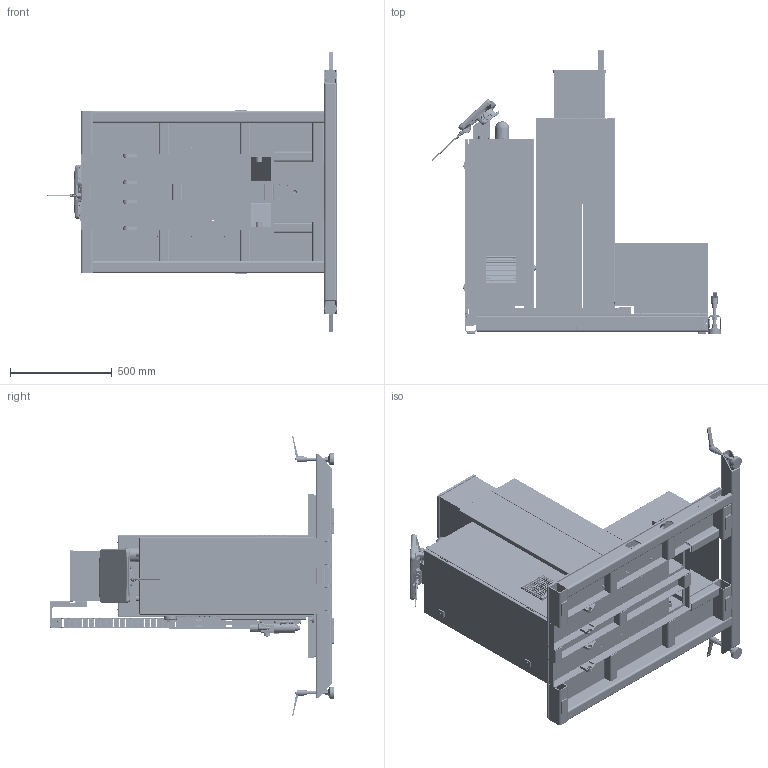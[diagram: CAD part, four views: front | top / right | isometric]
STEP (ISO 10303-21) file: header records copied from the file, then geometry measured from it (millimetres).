
FILE_DESCRIPTION (( 'STEP AP203' ), '1' );
FILE_NAME ('码垛工作站(液压叉车底盘+升降立柱)V2.0-20260511.STEP', '2026-05-11T05:36:00', ( '' ), ( '' ), 'SwSTEP 2.0', 'SolidWorks 2018', '' );
FILE_SCHEMA (( 'CONFIG_CONTROL_DESIGN' ));
Products named in the file (2): 码垛工作站(液压叉车底盘+升降立柱)V2.0-20260511
Bounding box: 1425.01 x 1397.6 x 1378 mm (x, y, z)
Surface area: 18430027.6 mm2 (no closed solid volume)
Topology: 0 solids, 284 shells, 15890 faces, 41951 edges, 26871 vertices
Faces by surface type: plane 9324, cylinder 4057, bspline 1278, cone 1033, torus 156, sphere 42
Entity records: 620025 total; most frequent: CARTESIAN_POINT 245580, ORIENTED_EDGE 83254, DIRECTION 68286, EDGE_CURVE 41726, VERTEX_POINT 26858, LINE 23634, VECTOR 23634, AXIS2_PLACEMENT_3D 22326
